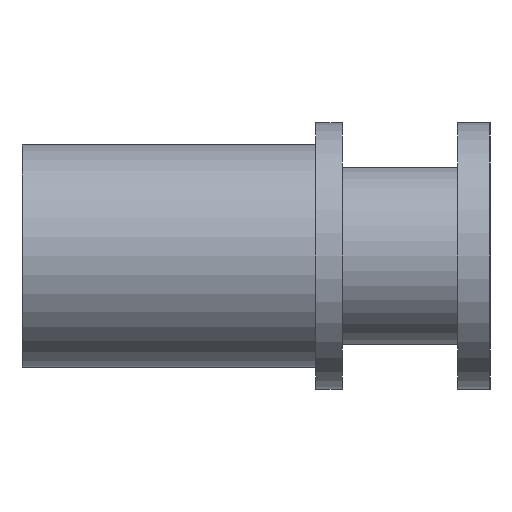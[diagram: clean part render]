
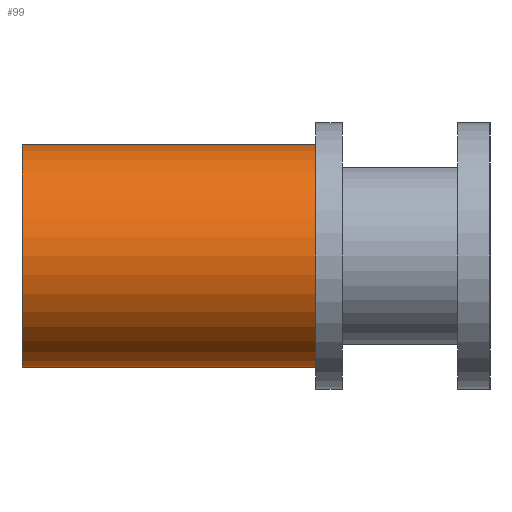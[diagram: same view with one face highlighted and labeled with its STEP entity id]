
A CAD part, left-side view. The second image highlights one B-rep face of the part: STEP entity #99.
In plain terms, the highlighted cylindrical face has radius 6.25 mm (diameter 12.5 mm), a full revolution.
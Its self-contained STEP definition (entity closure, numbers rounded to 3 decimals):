
#99 = ADVANCED_FACE( '', ( #171, #172 ), #173, .T. );
#171 = FACE_OUTER_BOUND( '', #241, .T. );
#172 = FACE_OUTER_BOUND( '', #242, .T. );
#173 = CYLINDRICAL_SURFACE( '', #243, 6.25 );
#241 = EDGE_LOOP( '', ( #299 ) );
#242 = EDGE_LOOP( '', ( #300 ) );
#243 = AXIS2_PLACEMENT_3D( '', #301, #302, #303 );
#299 = ORIENTED_EDGE( '', *, *, #404, .F. );
#300 = ORIENTED_EDGE( '', *, *, #405, .T. );
#301 = CARTESIAN_POINT( '', ( 0., 50., 0. ) );
#302 = DIRECTION( '', ( 0., -1., 0. ) );
#303 = DIRECTION( '', ( 0., 0., 1. ) );
#404 = EDGE_CURVE( '', #441, #441, #442, .T. );
#405 = EDGE_CURVE( '', #443, #443, #444, .T. );
#441 = VERTEX_POINT( '', #496 );
#442 = CIRCLE( '', #497, 6.25 );
#443 = VERTEX_POINT( '', #498 );
#444 = CIRCLE( '', #499, 6.25 );
#496 = CARTESIAN_POINT( '', ( 0., 16.5, 6.25 ) );
#497 = AXIS2_PLACEMENT_3D( '', #558, #559, #560 );
#498 = CARTESIAN_POINT( '', ( 0., 0., 6.25 ) );
#499 = AXIS2_PLACEMENT_3D( '', #561, #562, #563 );
#558 = CARTESIAN_POINT( '', ( 0., 16.5, 0. ) );
#559 = DIRECTION( '', ( 0., 1., 0. ) );
#560 = DIRECTION( '', ( 0., 0., 1. ) );
#561 = CARTESIAN_POINT( '', ( 0., 0., 0. ) );
#562 = DIRECTION( '', ( 0., 1., 0. ) );
#563 = DIRECTION( '', ( 0., 0., 1. ) );
